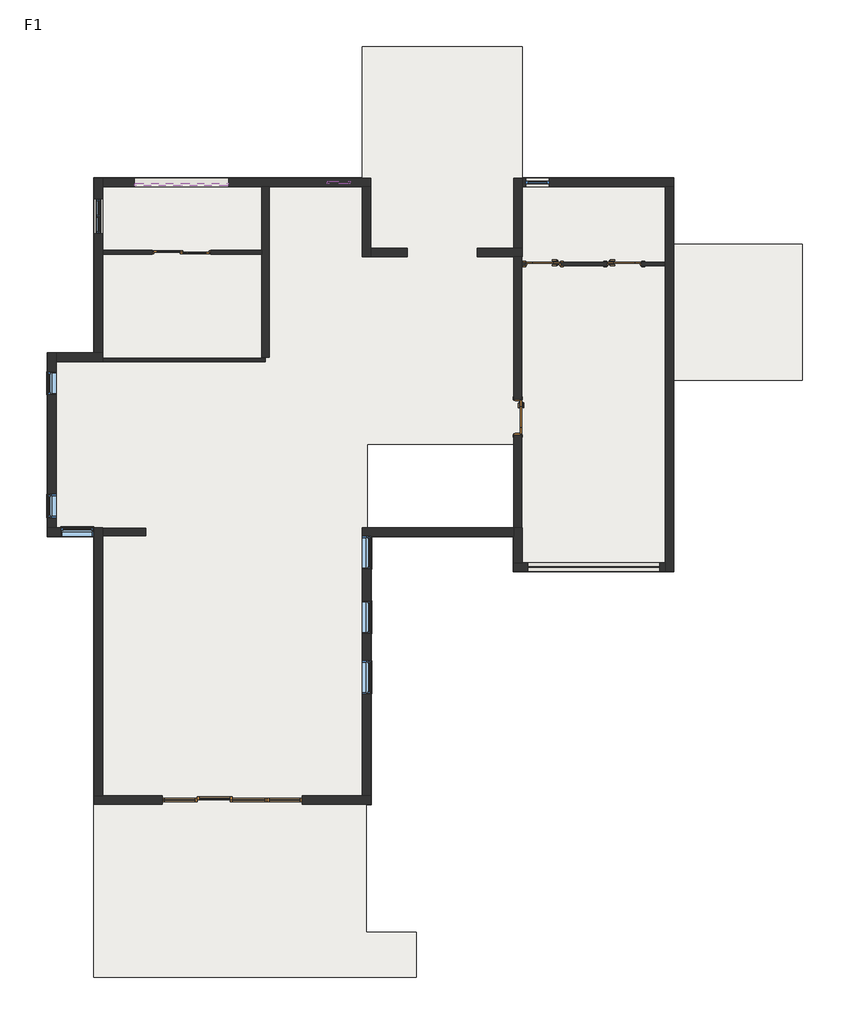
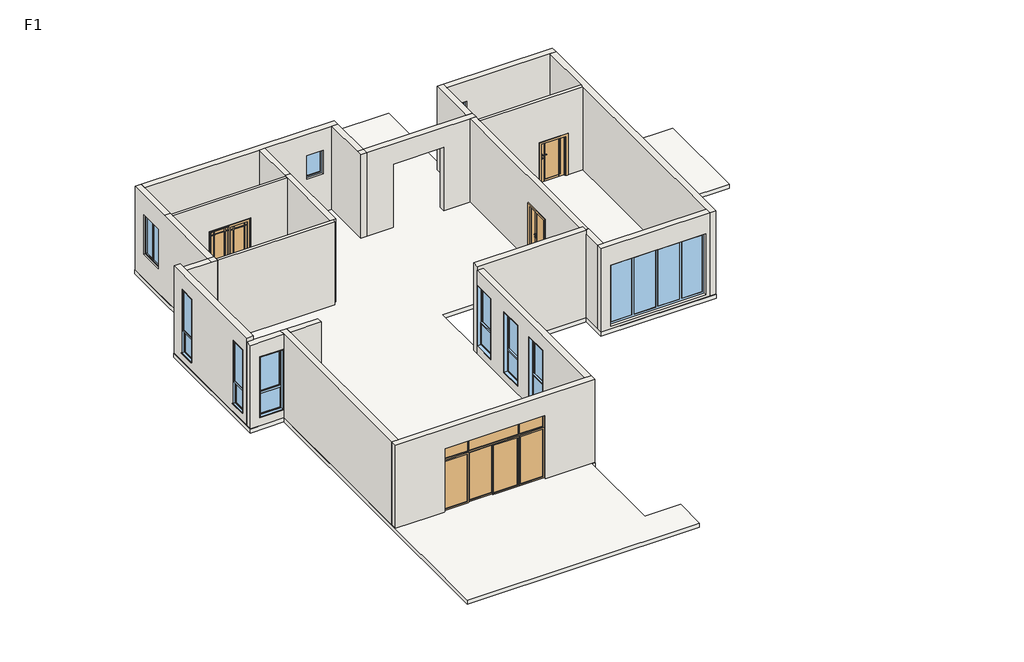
# One storey, incomplete: 22 walls, 11 windows, 5 doors, 1 slab.
"""IFC4 building model written with IfcOpenShell, lengths in millimetres."""

from ifc_helpers import new_model, si_unit, frame, origin, origin_with_axes, place, context, project, spatial, polyline, outline, extrude, faceted_brep, transform, mapped, element, save
from components import door_0915_3157fd55, door_0915_0a5b4c04, door_1500_x_2100mm_4734d329, door_900_x_2100_mm_dda2772b, ym3627_ym3624_cbced519, window_d0687fa4, c0615_c0609_9743c050, c0615_c0615_013a5557, c0624_07807a0b, c0823_02c6a616, c0915_c0915_c0da6e5c, c3423_bdca7cff

model = new_model("IFC4")

# Units and contexts
model_context = context("Model", 3, world=origin())
ifc_project = project(units=[si_unit("LENGTHUNIT", "METRE", prefix="MILLI")], contexts=[model_context])

# Site, building, storey
site = spatial("IfcSite", under=ifc_project)
building = spatial("IfcBuilding", under=site)
storey = spatial("IfcBuildingStorey", under=building, Name="F1", Elevation=0.0)

# Doors
placement = place(None, origin())
door_0915_shape = door_0915_3157fd55(model_context)
element("IfcDoor", 1, ObjectType="单扇平开门-木门 : 0915", at=placement, inside=storey, context=model_context, shape_type="MappedRepresentation", body=[
    mapped(door_0915_shape, transform((-3315.9782681, -1631.0286905, 0.0), x_axis=(1.0, 0.0, 0.0), y_axis=(0.0, 1.0, 0.0), z_axis=(0.0, 0.0, 1.0))),
])
door_0915_2_shape = door_0915_0a5b4c04(model_context)
element("IfcDoor", 2, ObjectType="单扇平开门-木门 : 0915", at=placement, inside=storey, context=model_context, shape_type="MappedRepresentation", body=[
    mapped(door_0915_2_shape, transform((-5405.9782681, -1631.0286905, 0.0), x_axis=(-1.0, 0.0, 0.0), y_axis=(0.0, -1.0, 0.0), z_axis=(0.0, 0.0, 1.0))),
])
door_1500_x_2100mm_shape = door_1500_x_2100mm_4734d329(model_context)
element("IfcDoor", 3, ObjectType="双扇推拉门 : 1500 x 2100mm", at=placement, inside=storey, context=model_context, shape_type="MappedRepresentation", body=[
    mapped(door_1500_x_2100mm_shape, transform((-14715.9782681, -1331.0286905, 0.0), x_axis=(-1.0, 0.0, 0.0), y_axis=(0.0, -1.0, 0.0), z_axis=(0.0, 0.0, 1.0))),
])
door_900_x_2100_mm_shape = door_900_x_2100_mm_dda2772b(model_context)
element("IfcDoor", 4, ObjectType="单扇平开门-木门 : 900 x 2100 mm", at=placement, inside=storey, context=model_context, shape_type="MappedRepresentation", body=[
    mapped(door_900_x_2100_mm_shape, transform((-6055.9782681, -5571.0286905, 0.0), x_axis=(0.0, -1.0, 0.0), y_axis=(1.0, 0.0, 0.0), z_axis=(0.0, 0.0, 1.0))),
])
ym3627_ym3624_shape = ym3627_ym3624_cbced519(model_context)
element("IfcDoor", 5, ObjectType="YM3627 : YM3624", at=placement, inside=storey, context=model_context, shape_type="MappedRepresentation", body=[
    mapped(ym3627_ym3624_shape, transform((-13405.9782681, -15431.0286905, 0.0), x_axis=(-1.0, 0.0, 0.0), y_axis=(0.0, -1.0, 0.0), z_axis=(0.0, 0.0, 1.0))),
])

# Slab
element("IfcSlab", 6, ObjectType="常规 - 150mm", at=placement, inside=storey, context=model_context, shape_type="SweptSolid", body=[
    extrude(outline(polyline([(-16975.9782681, 588.9713095), (-10055.9782681, 588.9713095), (-10055.9782681, 3968.9713095), (-5945.9782681, 3968.9713095), (-5945.9782681, 588.9713095), (-2035.9782681, 588.9713095), (-2035.9782681, -1118.8242174), (1264.0217319, -1118.8242174), (1264.0217319, -4618.8242174), (-2035.9782681, -4618.8242174), (-2035.9782681, -9551.0286905), (-6175.9782681, -9551.0286905), (-6175.9782681, -8651.0286905), (-9835.9782681, -8651.0286905), (-9835.9782681, -15551.0286905), (-9955.9782681, -15551.0286905), (-9955.9782681, -18831.0286905), (-8675.9782681, -18831.0286905), (-8675.9782681, -20001.0286905), (-16975.9782681, -20001.0286905), (-16975.9782681, -8651.0286905), (-18175.9782681, -8651.0286905), (-18175.9782681, -3911.0286905), (-16975.9782681, -3911.0286905), (-16975.9782681, 588.9713095)]), holes=[polyline([(-6175.9782681, -6281.0286905), (-9925.9782681, -6281.0286905), (-9925.9782681, -8411.0286905), (-6175.9782681, -8411.0286905), (-6175.9782681, -6281.0286905)])]), frame((0.0, 0.0, -150.0), z_axis=(0.0, 0.0, 1.0), x_axis=(1.0, 0.0, 0.0)), (0.0, 0.0, 1.0), 150.0),
])

# Walls
element("IfcWall", 7, ObjectType="F1楼层", at=placement, inside=storey, context=model_context, shape_type="Brep", body=[
    faceted_brep([(-16965.9782681, -15321.0286905, 0.0), (-16965.9782681, -15321.0286905, 3150.0), (-16745.9782681, -15321.0286905, 3150.0), (-10065.9782681, -15321.0286905, 3150.0), (-9845.9782681, -15321.0286905, 3150.0), (-9845.9782681, -15321.0286905, 0.0), (-10065.9782681, -15321.0286905, 0.0), (-11605.9782681, -15321.0286905, 0.0), (-11605.9782681, -15321.0286905, 2400.0), (-15205.9782681, -15321.0286905, 2400.0), (-15205.9782681, -15321.0286905, 0.0), (-16745.9782681, -15321.0286905, 0.0), (-16965.9782681, -15541.0286905, 3150.0), (-16965.9782681, -15541.0286905, 0.0), (-15205.9782681, -15541.0286905, 0.0), (-15205.9782681, -15541.0286905, 2400.0), (-11605.9782681, -15541.0286905, 2400.0), (-11605.9782681, -15541.0286905, 0.0), (-9845.9782681, -15541.0286905, 0.0), (-9845.9782681, -15541.0286905, 3150.0)], [[[0, 1, 2, 3, 4, 5, 6, 7, 8, 9, 10, 11]], [[12, 13, 14, 15, 16, 17, 18, 19]], [[13, 0, 11, 10, 14]], [[5, 18, 17, 7, 6]], [[1, 0, 13, 12]], [[5, 4, 19, 18]], [[16, 8, 7, 17]], [[8, 16, 15, 9]], [[9, 15, 14, 10]], [[4, 3, 2, 1, 12, 19]]]),
])
element("IfcWall", 8, ObjectType="F1楼层", at=placement, inside=storey, context=model_context, shape_type="Brep", body=[
    faceted_brep([(-16745.9782681, -15321.0286905, 0.0), (-16745.9782681, -8631.0286905, 0.0), (-16745.9782681, -8431.0286905, 0.0), (-16745.9782681, -8421.0286905, 0.0), (-16745.9782681, -8421.0286905, 3150.0), (-16745.9782681, -8431.0286905, 3150.0), (-16745.9782681, -8631.0286905, 3150.0), (-16745.9782681, -15321.0286905, 3150.0), (-16965.9782681, -15321.0286905, 0.0), (-16965.9782681, -15321.0286905, 3150.0), (-16965.9782681, -8641.0286905, 3150.0), (-16965.9782681, -8421.0286905, 3150.0), (-16965.9782681, -8421.0286905, 0.0), (-16965.9782681, -8641.0286905, 0.0)], [[[0, 1, 2, 3, 4, 5, 6, 7]], [[8, 9, 10, 11, 12, 13]], [[3, 2, 1, 0, 8, 13, 12]], [[0, 7, 9, 8]], [[4, 3, 12, 11]], [[7, 6, 5, 4, 11, 10, 9]]]),
])
element("IfcWall", 9, ObjectType="F1楼层", at=placement, inside=storey, context=model_context, shape_type="Brep", body=[
    faceted_brep([(-16965.9782681, -8421.0286905, 0.0), (-17945.9782681, -8421.0286905, 0.0), (-18165.9782681, -8421.0286905, 0.0), (-18165.9782681, -8421.0286905, 3150.0), (-16975.9782681, -8421.0286905, 3150.0), (-16965.9782681, -8421.0286905, 3150.0), (-16975.9782681, -8421.0286905, 2600.0), (-17825.9782681, -8421.0286905, 2600.0), (-17825.9782681, -8421.0286905, 300.0), (-16975.9782681, -8421.0286905, 300.0), (-16965.9782681, -8641.0286905, 0.0), (-16965.9782681, -8641.0286905, 3150.0), (-16975.9782681, -8641.0286905, 3150.0), (-18165.9782681, -8641.0286905, 3150.0), (-18165.9782681, -8641.0286905, 0.0), (-16975.9782681, -8641.0286905, 2600.0), (-16975.9782681, -8641.0286905, 300.0), (-17825.9782681, -8641.0286905, 300.0), (-17825.9782681, -8641.0286905, 2600.0)], [[[0, 1, 2, 3, 4, 5], [6, 7, 8, 9]], [[10, 11, 12, 13, 14], [15, 16, 17, 18]], [[2, 1, 0, 10, 14]], [[0, 5, 11, 10]], [[3, 2, 14, 13]], [[16, 15, 6, 9]], [[17, 16, 9, 8]], [[18, 17, 8, 7]], [[15, 18, 7, 6]], [[4, 3, 13, 12]], [[5, 4, 12, 11]]]),
])
element("IfcWall", 10, ObjectType="F1楼层", at=placement, inside=storey, context=model_context, shape_type="Brep", body=[
    faceted_brep([(-17945.9782681, -8421.0286905, 0.0), (-17945.9782681, -4141.0286905, 0.0), (-17945.9782681, -3921.0286905, 0.0), (-17945.9782681, -3921.0286905, 3150.0), (-17945.9782681, -3921.0286905, 3300.0), (-17945.9782681, -8421.0286905, 3300.0), (-17945.9782681, -4401.0286905, 2700.0), (-17945.9782681, -4401.0286905, 300.0), (-17945.9782681, -5001.0286905, 300.0), (-17945.9782681, -5001.0286905, 2700.0), (-17945.9782681, -7561.0286905, 2700.0), (-17945.9782681, -7561.0286905, 300.0), (-17945.9782681, -8161.0286905, 300.0), (-17945.9782681, -8161.0286905, 2700.0), (-18165.9782681, -8421.0286905, 0.0), (-18165.9782681, -8421.0286905, 3150.0), (-18165.9782681, -8421.0286905, 3300.0), (-18165.9782681, -3921.0286905, 3300.0), (-18165.9782681, -3921.0286905, 0.0), (-18165.9782681, -4401.0286905, 2700.0), (-18165.9782681, -5001.0286905, 2700.0), (-18165.9782681, -5001.0286905, 300.0), (-18165.9782681, -4401.0286905, 300.0), (-18165.9782681, -7561.0286905, 2700.0), (-18165.9782681, -8161.0286905, 2700.0), (-18165.9782681, -8161.0286905, 300.0), (-18165.9782681, -7561.0286905, 300.0)], [[[0, 1, 2, 3, 4, 5], [6, 7, 8, 9], [10, 11, 12, 13]], [[14, 15, 16, 17, 18], [19, 20, 21, 22], [23, 24, 25, 26]], [[2, 1, 0, 14, 18]], [[5, 4, 17, 16]], [[0, 5, 16, 15, 14]], [[4, 3, 2, 18, 17]], [[7, 6, 19, 22]], [[8, 7, 22, 21]], [[9, 8, 21, 20]], [[6, 9, 20, 19]], [[11, 10, 23, 26]], [[12, 11, 26, 25]], [[13, 12, 25, 24]], [[10, 13, 24, 23]]]),
])
element("IfcWall", 11, ObjectType="F1楼层", at=placement, inside=storey, context=model_context, shape_type="Brep", body=[
    faceted_brep([(-17945.9782681, -4141.0286905, 0.0), (-16745.9782681, -4141.0286905, 0.0), (-16745.9782681, -4141.0286905, 3150.0), (-16975.9782681, -4141.0286905, 3150.0), (-17945.9782681, -4141.0286905, 3150.0), (-17945.9782681, -3921.0286905, 0.0), (-17945.9782681, -3921.0286905, 3150.0), (-16975.9782681, -3921.0286905, 3150.0), (-16965.9782681, -3921.0286905, 3150.0), (-16745.9782681, -3921.0286905, 3150.0), (-16745.9782681, -3921.0286905, 0.0), (-16965.9782681, -3921.0286905, 0.0), (-16745.9782681, -4051.0286905, 0.0), (-16745.9782681, -4051.0286905, 3150.0)], [[[0, 1, 2, 3, 4]], [[5, 6, 7, 8, 9, 10, 11]], [[1, 0, 5, 11, 10, 12]], [[0, 4, 6, 5]], [[2, 1, 12, 10, 9, 13]], [[4, 3, 7, 6]], [[3, 2, 13, 9, 8, 7]]]),
])
element("IfcWall", 12, ObjectType="F1楼层", at=placement, inside=storey, context=model_context, shape_type="Brep", body=[
    faceted_brep([(-16745.9782681, -3921.0286905, 0.0), (-16745.9782681, -1381.0286905, 0.0), (-16745.9782681, -1281.0286905, 0.0), (-16745.9782681, 358.9713095, 0.0), (-16745.9782681, 578.9713095, 0.0), (-16745.9782681, 578.9713095, 3150.0), (-16745.9782681, 358.9713095, 3150.0), (-16745.9782681, -1221.0286905, 3150.0), (-16745.9782681, -1281.0286905, 3150.0), (-16745.9782681, -1381.0286905, 3150.0), (-16745.9782681, -3921.0286905, 3150.0), (-16745.9782681, -851.0286905, 900.0), (-16745.9782681, -851.0286905, 2400.0), (-16745.9782681, 48.9713095, 2400.0), (-16745.9782681, 48.9713095, 900.0), (-16965.9782681, -3921.0286905, 0.0), (-16965.9782681, -3921.0286905, 3150.0), (-16965.9782681, -1221.0286905, 3150.0), (-16965.9782681, 578.9713095, 3150.0), (-16965.9782681, 578.9713095, 0.0), (-16965.9782681, -851.0286905, 900.0), (-16965.9782681, 48.9713095, 900.0), (-16965.9782681, 48.9713095, 2400.0), (-16965.9782681, -851.0286905, 2400.0)], [[[0, 1, 2, 3, 4, 5, 6, 7, 8, 9, 10], [11, 12, 13, 14]], [[15, 16, 17, 18, 19], [20, 21, 22, 23]], [[4, 3, 2, 1, 0, 15, 19]], [[0, 10, 16, 15]], [[5, 4, 19, 18]], [[12, 11, 20, 23]], [[13, 12, 23, 22]], [[14, 13, 22, 21]], [[11, 14, 21, 20]], [[7, 6, 5, 18, 17]], [[10, 9, 8, 7, 17, 16]]]),
])
element("IfcWall", 13, ObjectType="F1楼层", at=placement, inside=storey, context=model_context, shape_type="Brep", body=[
    faceted_brep([(-16745.9782681, 358.9713095, 0.0), (-12655.9782681, 358.9713095, 0.0), (-12455.9782681, 358.9713095, 0.0), (-10065.9782681, 358.9713095, 0.0), (-9845.9782681, 358.9713095, 0.0), (-9845.9782681, 358.9713095, 3150.0), (-10065.9782681, 358.9713095, 3150.0), (-12455.9782681, 358.9713095, 3150.0), (-12655.9782681, 358.9713095, 3150.0), (-16745.9782681, 358.9713095, 3150.0), (-10965.9782681, 358.9713095, 1450.0), (-10965.9782681, 358.9713095, 2350.0), (-10365.9782681, 358.9713095, 2350.0), (-10365.9782681, 358.9713095, 1450.0), (-13515.9782681, 358.9713095, 1200.0), (-15915.9782681, 358.9713095, 1200.0), (-15915.9782681, 358.9713095, 1800.0), (-13515.9782681, 358.9713095, 1800.0), (-16745.9782681, 578.9713095, 0.0), (-16745.9782681, 578.9713095, 3150.0), (-9845.9782681, 578.9713095, 3150.0), (-9845.9782681, 578.9713095, 0.0), (-10965.9782681, 578.9713095, 1450.0), (-10365.9782681, 578.9713095, 1450.0), (-10365.9782681, 578.9713095, 2350.0), (-10965.9782681, 578.9713095, 2350.0), (-13515.9782681, 578.9713095, 1200.0), (-13515.9782681, 578.9713095, 1800.0), (-15915.9782681, 578.9713095, 1800.0), (-15915.9782681, 578.9713095, 1200.0)], [[[0, 1, 2, 3, 4, 5, 6, 7, 8, 9], [10, 11, 12, 13], [14, 15, 16, 17]], [[18, 19, 20, 21], [22, 23, 24, 25], [26, 27, 28, 29]], [[4, 3, 2, 1, 0, 18, 21]], [[9, 8, 7, 6, 5, 20, 19]], [[0, 9, 19, 18]], [[5, 4, 21, 20]], [[11, 10, 22, 25]], [[12, 11, 25, 24]], [[13, 12, 24, 23]], [[10, 13, 23, 22]], [[27, 26, 14, 17]], [[28, 27, 17, 16]], [[29, 28, 16, 15]], [[26, 29, 15, 14]]]),
])
element("IfcWall", 14, ObjectType="F1楼层", at=placement, inside=storey, context=model_context, shape_type="Brep", body=[
    faceted_brep([(-10065.9782681, 358.9713095, 0.0), (-10065.9782681, -1441.0286905, 0.0), (-10065.9782681, -1441.0286905, 3150.0), (-10065.9782681, -1221.0286905, 3150.0), (-10065.9782681, 358.9713095, 3150.0), (-9845.9782681, 358.9713095, 0.0), (-9845.9782681, 358.9713095, 3150.0), (-9845.9782681, -1221.0286905, 3150.0), (-9845.9782681, -1441.0286905, 3150.0), (-9845.9782681, -1441.0286905, 0.0), (-9845.9782681, -1221.0286905, 0.0)], [[[0, 1, 2, 3, 4]], [[5, 6, 7, 8, 9, 10]], [[1, 0, 5, 10, 9]], [[0, 4, 6, 5]], [[2, 1, 9, 8]], [[4, 3, 7, 6]], [[3, 2, 8, 7]]]),
])
element("IfcWall", 15, ObjectType="F1楼层", at=placement, inside=storey, context=model_context, shape_type="Brep", body=[
    faceted_brep([(-9845.9782681, -1441.0286905, 3150.0), (-9845.9782681, -1441.0286905, 0.0), (-8905.9782681, -1441.0286905, 0.0), (-8905.9782681, -1441.0286905, 2400.0), (-7105.9782681, -1441.0286905, 2400.0), (-7105.9782681, -1441.0286905, 0.0), (-6155.9782681, -1441.0286905, 0.0), (-5955.9782681, -1441.0286905, 0.0), (-5945.9782681, -1441.0286905, 0.0), (-5945.9782681, -1441.0286905, 3150.0), (-5955.9782681, -1441.0286905, 3150.0), (-6155.9782681, -1441.0286905, 3150.0), (-9845.9782681, -1221.0286905, 0.0), (-9845.9782681, -1221.0286905, 3150.0), (-6175.9782681, -1221.0286905, 3150.0), (-6165.9782681, -1221.0286905, 3150.0), (-5945.9782681, -1221.0286905, 3150.0), (-5945.9782681, -1221.0286905, 0.0), (-6165.9782681, -1221.0286905, 0.0), (-7105.9782681, -1221.0286905, 0.0), (-7105.9782681, -1221.0286905, 2400.0), (-8905.9782681, -1221.0286905, 2400.0), (-8905.9782681, -1221.0286905, 0.0)], [[[0, 1, 2, 3, 4, 5, 6, 7, 8, 9, 10, 11]], [[12, 13, 14, 15, 16, 17, 18, 19, 20, 21, 22]], [[1, 12, 22, 2]], [[17, 8, 7, 6, 5, 19, 18]], [[1, 0, 13, 12]], [[9, 8, 17, 16]], [[4, 20, 19, 5]], [[20, 4, 3, 21]], [[21, 3, 2, 22]], [[13, 0, 11, 10, 9, 16, 15, 14]]]),
])
element("IfcWall", 16, ObjectType="F1楼层", at=placement, inside=storey, context=model_context, shape_type="Brep", body=[
    faceted_brep([(-5945.9782681, -1221.0286905, 0.0), (-5945.9782681, 358.9713095, 0.0), (-5945.9782681, 578.9713095, 0.0), (-5945.9782681, 578.9713095, 3150.0), (-5945.9782681, 358.9713095, 3150.0), (-5945.9782681, -1221.0286905, 3150.0), (-6165.9782681, -1221.0286905, 0.0), (-6165.9782681, -1221.0286905, 3150.0), (-6165.9782681, 578.9713095, 3150.0), (-6165.9782681, 578.9713095, 0.0)], [[[0, 1, 2, 3, 4, 5]], [[6, 7, 8, 9]], [[2, 1, 0, 6, 9]], [[0, 5, 7, 6]], [[3, 2, 9, 8]], [[5, 4, 3, 8, 7]]]),
])
element("IfcWall", 17, ObjectType="F1楼层", at=placement, inside=storey, context=model_context, shape_type="Brep", body=[
    faceted_brep([(-5945.9782681, 358.9713095, 0.0), (-2265.9782681, 358.9713095, 0.0), (-2045.9782681, 358.9713095, 0.0), (-2045.9782681, 358.9713095, 3150.0), (-2265.9782681, 358.9713095, 3150.0), (-5945.9782681, 358.9713095, 3150.0), (-5245.9782681, 358.9713095, 2400.0), (-5245.9782681, 358.9713095, 900.0), (-5845.9782681, 358.9713095, 900.0), (-5845.9782681, 358.9713095, 2400.0), (-2045.9782681, 578.9713095, 0.0), (-5945.9782681, 578.9713095, 0.0), (-5945.9782681, 578.9713095, 3150.0), (-2045.9782681, 578.9713095, 3150.0), (-5245.9782681, 578.9713095, 900.0), (-5245.9782681, 578.9713095, 2400.0), (-5845.9782681, 578.9713095, 2400.0), (-5845.9782681, 578.9713095, 900.0)], [[[0, 1, 2, 3, 4, 5], [6, 7, 8, 9]], [[10, 11, 12, 13], [14, 15, 16, 17]], [[2, 1, 0, 11, 10]], [[0, 5, 12, 11]], [[3, 2, 10, 13]], [[5, 4, 3, 13, 12]], [[14, 7, 6, 15]], [[16, 9, 8, 17]], [[7, 14, 17, 8]], [[9, 16, 15, 6]]]),
])
element("IfcWall", 18, ObjectType="F1楼层", at=placement, inside=storey, context=model_context, shape_type="Brep", body=[
    faceted_brep([(-2265.9782681, 358.9713095, 0.0), (-2265.9782681, -1581.0286905, 0.0), (-2265.9782681, -1681.0286905, 0.0), (-2265.9782681, -9321.0286905, 0.0), (-2265.9782681, -9541.0286905, 0.0), (-2265.9782681, -9541.0286905, 3150.0), (-2265.9782681, -9321.0286905, 3150.0), (-2265.9782681, -1681.0286905, 3150.0), (-2265.9782681, -1581.0286905, 3150.0), (-2265.9782681, 358.9713095, 3150.0), (-2045.9782681, 358.9713095, 0.0), (-2045.9782681, 358.9713095, 3150.0), (-2045.9782681, -9541.0286905, 3150.0), (-2045.9782681, -9541.0286905, 0.0)], [[[0, 1, 2, 3, 4, 5, 6, 7, 8, 9]], [[10, 11, 12, 13]], [[4, 3, 2, 1, 0, 10, 13]], [[0, 9, 11, 10]], [[5, 4, 13, 12]], [[9, 8, 7, 6, 5, 12, 11]]]),
])
element("IfcWall", 19, ObjectType="F1楼层", at=placement, inside=storey, context=model_context, shape_type="Brep", body=[
    faceted_brep([(-2265.9782681, -9321.0286905, 0.0), (-5945.9782681, -9321.0286905, 0.0), (-6165.9782681, -9321.0286905, 0.0), (-6165.9782681, -9321.0286905, 3150.0), (-5945.9782681, -9321.0286905, 3150.0), (-2265.9782681, -9321.0286905, 3150.0), (-5805.9782681, -9321.0286905, 2400.0), (-5805.9782681, -9321.0286905, 100.0), (-2405.9782681, -9321.0286905, 100.0), (-2405.9782681, -9321.0286905, 2400.0), (-6165.9782681, -9541.0286905, 0.0), (-2265.9782681, -9541.0286905, 0.0), (-2265.9782681, -9541.0286905, 3150.0), (-6165.9782681, -9541.0286905, 3150.0), (-5805.9782681, -9541.0286905, 100.0), (-5805.9782681, -9541.0286905, 2400.0), (-2405.9782681, -9541.0286905, 2400.0), (-2405.9782681, -9541.0286905, 100.0)], [[[0, 1, 2, 3, 4, 5], [6, 7, 8, 9]], [[10, 11, 12, 13], [14, 15, 16, 17]], [[2, 1, 0, 11, 10]], [[0, 5, 12, 11]], [[3, 2, 10, 13]], [[14, 7, 6, 15]], [[15, 6, 9, 16]], [[16, 9, 8, 17]], [[7, 14, 17, 8]], [[5, 4, 3, 13, 12]]]),
])
element("IfcWall", 20, ObjectType="F1楼层", at=placement, inside=storey, context=model_context, shape_type="Brep", body=[
    faceted_brep([(-5945.9782681, -9321.0286905, 0.0), (-5945.9782681, -8421.0286905, 0.0), (-5945.9782681, -8421.0286905, 3150.0), (-5945.9782681, -9321.0286905, 3150.0), (-6165.9782681, -9321.0286905, 0.0), (-6165.9782681, -9321.0286905, 3150.0), (-6165.9782681, -8421.0286905, 3150.0), (-6165.9782681, -8421.0286905, 0.0), (-6165.9782681, -8641.0286905, 0.0), (-6155.9782681, -8421.0286905, 0.0), (-5955.9782681, -8421.0286905, 0.0), (-6155.9782681, -8421.0286905, 3150.0), (-5955.9782681, -8421.0286905, 3150.0)], [[[0, 1, 2, 3]], [[4, 5, 6, 7, 8]], [[1, 0, 4, 8, 7, 9, 10]], [[0, 3, 5, 4]], [[2, 1, 10, 9, 7, 6, 11, 12]], [[3, 2, 12, 11, 6, 5]]]),
])
element("IfcWall", 21, ObjectType="F1楼层", at=placement, inside=storey, context=model_context, shape_type="Brep", body=[
    faceted_brep([(-6165.9782681, -8421.0286905, 0.0), (-10065.9782681, -8421.0286905, 0.0), (-10065.9782681, -8421.0286905, 3300.0), (-6165.9782681, -8421.0286905, 3300.0), (-6165.9782681, -8421.0286905, 3150.0), (-6165.9782681, -8641.0286905, 0.0), (-6165.9782681, -8641.0286905, 3300.0), (-10065.9782681, -8641.0286905, 3300.0), (-10065.9782681, -8641.0286905, 3150.0), (-10065.9782681, -8641.0286905, 2600.0), (-10065.9782681, -8641.0286905, 300.0), (-10065.9782681, -8641.0286905, 0.0), (-9845.9782681, -8641.0286905, 0.0)], [[[0, 1, 2, 3, 4]], [[5, 6, 7, 8, 9, 10, 11, 12]], [[0, 4, 3, 6, 5]], [[2, 1, 11, 10, 9, 8, 7]], [[1, 0, 5, 12, 11]], [[3, 2, 7, 6]]]),
])
element("IfcWall", 22, ObjectType="F1楼层", at=placement, inside=storey, context=model_context, shape_type="SweptSolid", body=[
    extrude(outline(polyline([(-8641.0286905, 3150.0), (-8641.0286905, 2600.0), (-9491.0286905, 2600.0), (-9491.0286905, 300.0), (-8641.0286905, 300.0), (-8641.0286905, 0.0), (-15321.0286905, 0.0), (-15321.0286905, 3150.0), (-8641.0286905, 3150.0)]), holes=[polyline([(-12701.0286905, 2600.0), (-12701.0286905, 300.0), (-11851.0286905, 300.0), (-11851.0286905, 2600.0), (-12701.0286905, 2600.0)]), polyline([(-11151.0286905, 2600.0), (-11151.0286905, 300.0), (-10301.0286905, 300.0), (-10301.0286905, 2600.0), (-11151.0286905, 2600.0)])]), frame((-10065.9782681, 0.0, 0.0), z_axis=(1.0, 0.0, 0.0), x_axis=(0.0, 1.0, 0.0)), (0.0, 0.0, 1.0), 220.0),
])
element("IfcWall", 23, ObjectType="常规 - 200mm", at=placement, inside=storey, context=model_context, shape_type="Brep", body=[
    faceted_brep([(-12655.9782681, 358.9713095, 0.0), (-12655.9782681, -1281.0286905, 0.0), (-12655.9782681, -1381.0286905, 0.0), (-12655.9782681, -4031.0286905, 0.0), (-12655.9782681, -4031.0286905, 3150.0), (-12655.9782681, -1381.0286905, 3150.0), (-12655.9782681, -1281.0286905, 3150.0), (-12655.9782681, -1221.0286905, 3150.0), (-12655.9782681, 358.9713095, 3150.0), (-12455.9782681, 358.9713095, 0.0), (-12455.9782681, 358.9713095, 3150.0), (-12455.9782681, -1221.0286905, 3150.0), (-12455.9782681, -4031.0286905, 3150.0), (-12455.9782681, -4031.0286905, 0.0)], [[[0, 1, 2, 3, 4, 5, 6, 7, 8]], [[9, 10, 11, 12, 13]], [[3, 2, 1, 0, 9, 13]], [[4, 3, 13, 12]], [[0, 8, 10, 9]], [[8, 7, 11, 10]], [[7, 6, 5, 4, 12, 11]]]),
])
element("IfcWall", 24, ObjectType="常规 - 200mm", at=placement, inside=storey, context=model_context, shape_type="SweptSolid", body=[
    extrude(outline(polyline([(-16745.9782681, -8431.0286905), (-15635.9782681, -8431.0286905), (-15635.9782681, -8631.0286905), (-16745.9782681, -8631.0286905), (-16745.9782681, -8431.0286905)])), origin_with_axes(), (0.0, 0.0, 1.0), 3150.0),
])
element("IfcWall", 25, ObjectType="常规 - 100mm 砌体", at=placement, inside=storey, context=model_context, shape_type="SweptSolid", body=[
    extrude(outline(polyline([(3150.0, -16745.9782681), (0.0, -16745.9782681), (0.0, -15465.9782681), (2100.0, -15465.9782681), (2100.0, -13965.9782681), (0.0, -13965.9782681), (0.0, -12655.9782681), (3150.0, -12655.9782681), (3150.0, -16745.9782681)])), frame((0.0, -1381.0286905, 0.0), z_axis=(0.0, 1.0, 0.0), x_axis=(0.0, 0.0, 1.0)), (0.0, 0.0, 1.0), 100.0),
])
element("IfcWall", 26, ObjectType="常规 - 100mm 砌体", at=placement, inside=storey, context=model_context, shape_type="Brep", body=[
    faceted_brep([(-16745.9782681, -4151.0286905, 0.0), (-12555.9782681, -4151.0286905, 0.0), (-12555.9782681, -4151.0286905, 3150.0), (-16745.9782681, -4151.0286905, 3150.0), (-16745.9782681, -4051.0286905, 0.0), (-16745.9782681, -4051.0286905, 3150.0), (-12555.9782681, -4051.0286905, 3150.0), (-12555.9782681, -4051.0286905, 0.0), (-16745.9782681, -4141.0286905, 0.0), (-16745.9782681, -4141.0286905, 3150.0)], [[[0, 1, 2, 3]], [[4, 5, 6, 7]], [[1, 0, 8, 4, 7]], [[2, 1, 7, 6]], [[0, 3, 9, 5, 4, 8]], [[3, 2, 6, 5, 9]]]),
])
element("IfcWall", 27, ObjectType="常规 - 200mm", at=placement, inside=storey, context=model_context, shape_type="Brep", body=[
    faceted_brep([(-6155.9782681, -1441.0286905, 3150.0), (-6155.9782681, -1441.0286905, 0.0), (-6155.9782681, -5121.0286905, 0.0), (-6155.9782681, -5121.0286905, 2100.0), (-6155.9782681, -6021.0286905, 2100.0), (-6155.9782681, -6021.0286905, 0.0), (-6155.9782681, -8421.0286905, 0.0), (-6155.9782681, -8421.0286905, 3150.0), (-5955.9782681, -1441.0286905, 0.0), (-5955.9782681, -1441.0286905, 3150.0), (-5955.9782681, -1581.0286905, 3150.0), (-5955.9782681, -1681.0286905, 3150.0), (-5955.9782681, -8421.0286905, 3150.0), (-5955.9782681, -8421.0286905, 0.0), (-5955.9782681, -6021.0286905, 0.0), (-5955.9782681, -6021.0286905, 2100.0), (-5955.9782681, -5121.0286905, 2100.0), (-5955.9782681, -5121.0286905, 0.0), (-5955.9782681, -1681.0286905, 0.0), (-5955.9782681, -1581.0286905, 0.0)], [[[0, 1, 2, 3, 4, 5, 6, 7]], [[8, 9, 10, 11, 12, 13, 14, 15, 16, 17, 18, 19]], [[1, 8, 19, 18, 17, 2]], [[13, 6, 5, 14]], [[1, 0, 9, 8]], [[7, 6, 13, 12]], [[4, 15, 14, 5]], [[15, 4, 3, 16]], [[16, 3, 2, 17]], [[7, 12, 11, 10, 9, 0]]]),
])
element("IfcWall", 28, ObjectType="常规 - 100mm 砌体", at=placement, inside=storey, context=model_context, shape_type="SweptSolid", body=[
    extrude(outline(polyline([(3150.0, -5955.9782681), (0.0, -5955.9782681), (0.0, -5855.9782681), (1500.0, -5855.9782681), (1500.0, -4955.9782681), (0.0, -4955.9782681), (0.0, -3765.9782681), (1500.0, -3765.9782681), (1500.0, -2865.9782681), (0.0, -2865.9782681), (0.0, -2265.9782681), (3150.0, -2265.9782681), (3150.0, -5955.9782681)])), frame((0.0, -1681.0286905, 0.0), z_axis=(0.0, 1.0, 0.0), x_axis=(0.0, 0.0, 1.0)), (0.0, 0.0, 1.0), 100.0),
])

# Windows
window_shape = window_d0687fa4(model_context)
element("IfcWindow", 29, ObjectType="固定窗-双扇 : 2400×600", at=placement, inside=storey, context=model_context, shape_type="MappedRepresentation", body=[
    mapped(window_shape, transform((-14715.9782681, 468.9713095, 400.0), x_axis=(-1.0, 0.0, 0.0), y_axis=(0.0, -1.0, 0.0), z_axis=(0.0, 0.0, 1.0))),
])
c0615_c0609_shape = c0615_c0609_9743c050(model_context)
element("IfcWindow", 30, ObjectType="C0615 : C0609", at=placement, inside=storey, context=model_context, shape_type="MappedRepresentation", body=[
    mapped(c0615_c0609_shape, transform((-10665.9782681, 468.9713095, 0.0), x_axis=(1.0, 0.0, 0.0), y_axis=(0.0, 1.0, 0.0), z_axis=(0.0, 0.0, 1.0))),
])
c0615_c0615_shape = c0615_c0615_013a5557(model_context)
element("IfcWindow", 31, ObjectType="C0615 : C0615", at=placement, inside=storey, context=model_context, shape_type="MappedRepresentation", body=[
    mapped(c0615_c0615_shape, transform((-5545.9782681, 468.9713095, -550.0), x_axis=(-1.0, 0.0, 0.0), y_axis=(0.0, -1.0, 0.0), z_axis=(0.0, 0.0, 1.0))),
])
c0624_shape = c0624_07807a0b(model_context)
element("IfcWindow", 32, ObjectType="上下拉窗1 : C0624", at=placement, inside=storey, context=model_context, shape_type="MappedRepresentation", body=[
    mapped(c0624_shape, transform((-18056.2167284, -4701.0286905, 0.0), x_axis=(0.0, 1.0, 0.0), y_axis=(-1.0, 0.0, 0.0), z_axis=(0.0, 0.0, 1.0))),
])
element("IfcWindow", 33, ObjectType="上下拉窗1 : C0624", at=placement, inside=storey, context=model_context, shape_type="MappedRepresentation", body=[
    mapped(c0624_shape, transform((-18056.2167284, -7861.0286905, 0.0), x_axis=(0.0, 1.0, 0.0), y_axis=(-1.0, 0.0, 0.0), z_axis=(0.0, 0.0, 1.0))),
])
c0823_shape = c0823_02c6a616(model_context)
element("IfcWindow", 34, ObjectType="上下拉窗1 : C0823", at=placement, inside=storey, context=model_context, shape_type="MappedRepresentation", body=[
    mapped(c0823_shape, transform((-17400.9782681, -8530.7902302, 0.0), x_axis=(1.0, 0.0, 0.0), y_axis=(0.0, 1.0, 0.0), z_axis=(0.0, 0.0, 1.0))),
])
element("IfcWindow", 35, ObjectType="上下拉窗1 : C0823", at=placement, inside=storey, context=model_context, shape_type="MappedRepresentation", body=[
    mapped(c0823_shape, transform((-9955.7398079, -12276.0286905, 0.0), x_axis=(0.0, -1.0, 0.0), y_axis=(1.0, 0.0, 0.0), z_axis=(0.0, 0.0, 1.0))),
])
element("IfcWindow", 36, ObjectType="上下拉窗1 : C0823", at=placement, inside=storey, context=model_context, shape_type="MappedRepresentation", body=[
    mapped(c0823_shape, transform((-9955.7398079, -10726.0286905, 0.0), x_axis=(0.0, -1.0, 0.0), y_axis=(1.0, 0.0, 0.0), z_axis=(0.0, 0.0, 1.0))),
])
element("IfcWindow", 37, ObjectType="上下拉窗1 : C0823", at=placement, inside=storey, context=model_context, shape_type="MappedRepresentation", body=[
    mapped(c0823_shape, transform((-9955.7398079, -9066.0286905, 0.0), x_axis=(0.0, -1.0, 0.0), y_axis=(1.0, 0.0, 0.0), z_axis=(0.0, 0.0, 1.0))),
])
c0915_c0915_shape = c0915_c0915_c0da6e5c(model_context)
element("IfcWindow", 38, ObjectType="C0915 : C0915", at=placement, inside=storey, context=model_context, shape_type="MappedRepresentation", body=[
    mapped(c0915_c0915_shape, transform((-16855.9782681, -401.0286905, 0.0), x_axis=(0.0, 1.0, 0.0), y_axis=(-1.0, 0.0, 0.0), z_axis=(0.0, 0.0, 1.0))),
])
c3423_shape = c3423_bdca7cff(model_context)
element("IfcWindow", 39, ObjectType="窗户 : C3423", at=placement, inside=storey, context=model_context, shape_type="MappedRepresentation", body=[
    mapped(c3423_shape, transform((-4105.9782681, -9431.0286905, -700.0), x_axis=(1.0, 0.0, 0.0), y_axis=(0.0, 1.0, 0.0), z_axis=(0.0, 0.0, 1.0))),
])

save(model, "model.ifc")
